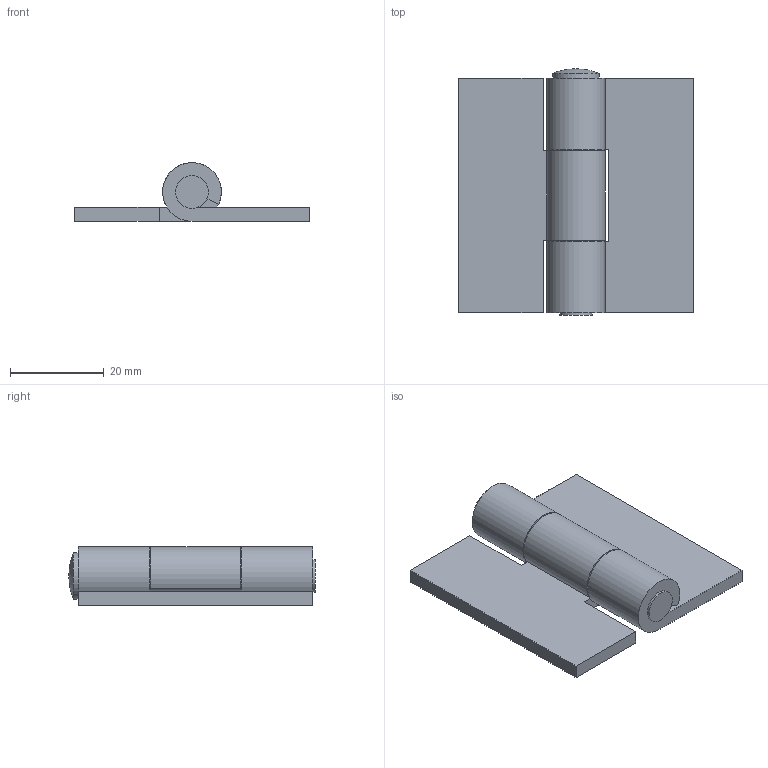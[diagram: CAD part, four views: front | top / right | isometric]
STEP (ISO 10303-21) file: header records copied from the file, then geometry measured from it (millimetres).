
FILE_DESCRIPTION(/* description */ (''),/* implementation_level */ '2;1');
FILE_NAME(/* name */ '\\NAS\db20\HHN5050-30\DR_HHN5050-30.stp',/* time_stamp */ '2018-08-11T15:39:55+09:00',/* author */ ('user'),/* organization */ (''),/* preprocessor_version */ 'ST-DEVELOPER v15.6',/* originating_system */ 'Autodesk Inventor 2015',/* authorisation */ '');
FILE_SCHEMA (('AUTOMOTIVE_DESIGN { 1 0 10303 214 3 1 1 }'));
Length unit declared in the file: millimetre
Products named in the file (3): DR_HHN5050-30-P1; DR_HHN5050-30-P2; DR_HHN5050-30
Bounding box: 50 x 52.5 x 12.49 mm (x, y, z)
Volume: 11868 mm3; surface area: 9330.7 mm2
Topology: 3 solids, 3 shells, 33 faces, 78 edges, 52 vertices
Faces by surface type: plane 23, cylinder 9, sphere 1
Full cylindrical faces by diameter (mm): 6.5 x1, 7 x1, 10 x1
Entity records: 990 total; most frequent: DIRECTION 166, CARTESIAN_POINT 160, ORIENTED_EDGE 144, EDGE_CURVE 72, AXIS2_PLACEMENT_3D 56, LINE 54, VECTOR 54, VERTEX_POINT 50
